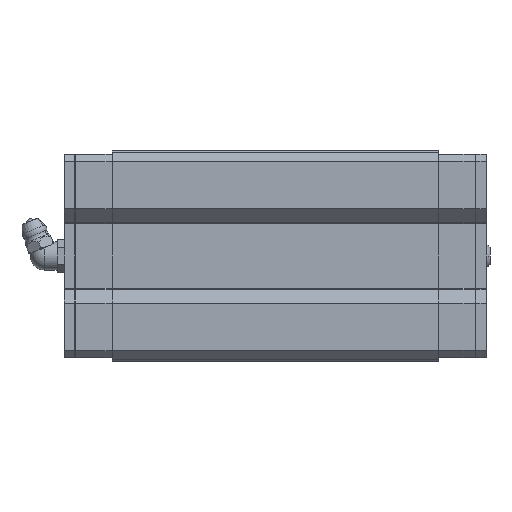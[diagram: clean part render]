
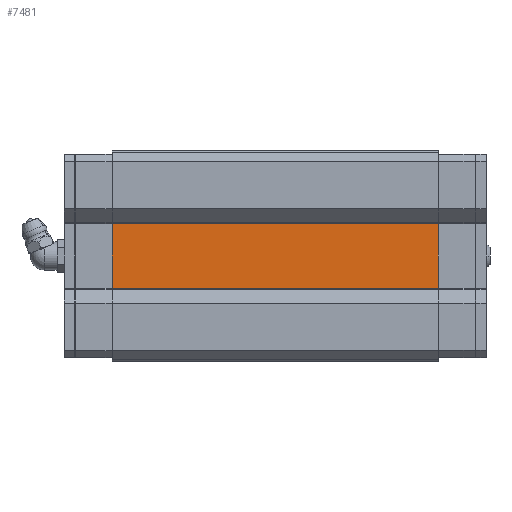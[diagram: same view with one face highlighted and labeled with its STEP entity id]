
A CAD part, front view. The second image highlights one B-rep face of the part: STEP entity #7481.
In plain terms, the highlighted planar face has unit normal (0, -1, 0).
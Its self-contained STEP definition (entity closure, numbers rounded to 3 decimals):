
#409 = ORIENTED_EDGE ( 'NONE', *, *, #950, .F. ) ;
#950 = EDGE_CURVE ( 'NONE', #6000, #13019, #9527, .T. ) ;
#960 = VERTEX_POINT ( 'NONE', #10230 ) ;
#1220 = FACE_OUTER_BOUND ( 'NONE', #8647, .T. ) ;
#2087 = DIRECTION ( 'NONE',  ( -1., 0., 0. ) ) ;
#2139 = AXIS2_PLACEMENT_3D ( 'NONE', #3404, #12520, #5672 ) ;
#3065 = CARTESIAN_POINT ( 'NONE',  ( 60.2, 0., 9.256 ) ) ;
#3404 = CARTESIAN_POINT ( 'NONE',  ( -46.5, 0., 9.256 ) ) ;
#3670 = CARTESIAN_POINT ( 'NONE',  ( -46.5, 0., 4.628 ) ) ;
#4362 = EDGE_CURVE ( 'NONE', #14719, #6000, #5554, .T. ) ;
#4765 = DIRECTION ( 'NONE',  ( -1., 0., 0. ) ) ;
#5554 = LINE ( 'NONE', #5705, #14685 ) ;
#5672 = DIRECTION ( 'NONE',  ( 0., 0., -1. ) ) ;
#5705 = CARTESIAN_POINT ( 'NONE',  ( 46.5, 0., 4.628 ) ) ;
#5989 = CARTESIAN_POINT ( 'NONE',  ( 46.5, 0., -9.256 ) ) ;
#6000 = VERTEX_POINT ( 'NONE', #5989 ) ;
#7083 = VECTOR ( 'NONE', #14005, 1000. ) ;
#7481 = ADVANCED_FACE ( 'NONE', ( #1220 ), #7920, .T. ) ;
#7503 = VECTOR ( 'NONE', #2087, 1000. ) ;
#7920 = PLANE ( 'NONE',  #2139 ) ;
#8516 = CARTESIAN_POINT ( 'NONE',  ( 46.5, 0., 9.256 ) ) ;
#8647 = EDGE_LOOP ( 'NONE', ( #9479, #409, #10191, #9486 ) ) ;
#9248 = CARTESIAN_POINT ( 'NONE',  ( -46.5, 0., -9.256 ) ) ;
#9409 = LINE ( 'NONE', #3670, #7083 ) ;
#9479 = ORIENTED_EDGE ( 'NONE', *, *, #12573, .F. ) ;
#9486 = ORIENTED_EDGE ( 'NONE', *, *, #11193, .T. ) ;
#9527 = LINE ( 'NONE', #10508, #14443 ) ;
#10191 = ORIENTED_EDGE ( 'NONE', *, *, #4362, .F. ) ;
#10230 = CARTESIAN_POINT ( 'NONE',  ( -46.5, 0., 9.256 ) ) ;
#10508 = CARTESIAN_POINT ( 'NONE',  ( 60.2, 0., -9.256 ) ) ;
#11193 = EDGE_CURVE ( 'NONE', #14719, #960, #14682, .T. ) ;
#12413 = DIRECTION ( 'NONE',  ( 0., 0., -1. ) ) ;
#12520 = DIRECTION ( 'NONE',  ( 0., -1., 0. ) ) ;
#12573 = EDGE_CURVE ( 'NONE', #13019, #960, #9409, .T. ) ;
#13019 = VERTEX_POINT ( 'NONE', #9248 ) ;
#14005 = DIRECTION ( 'NONE',  ( 0., 0., 1. ) ) ;
#14443 = VECTOR ( 'NONE', #4765, 1000. ) ;
#14682 = LINE ( 'NONE', #3065, #7503 ) ;
#14685 = VECTOR ( 'NONE', #12413, 1000. ) ;
#14719 = VERTEX_POINT ( 'NONE', #8516 ) ;
